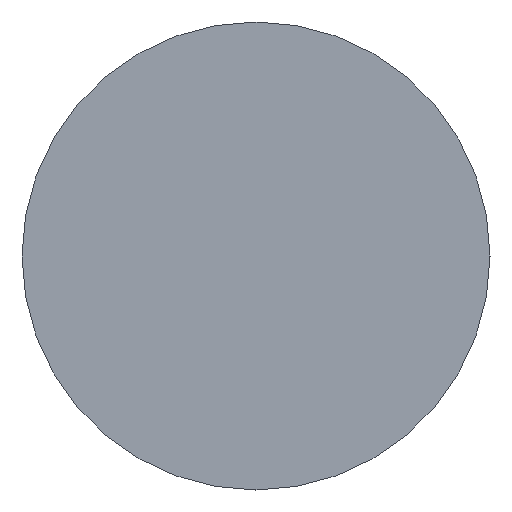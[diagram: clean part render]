
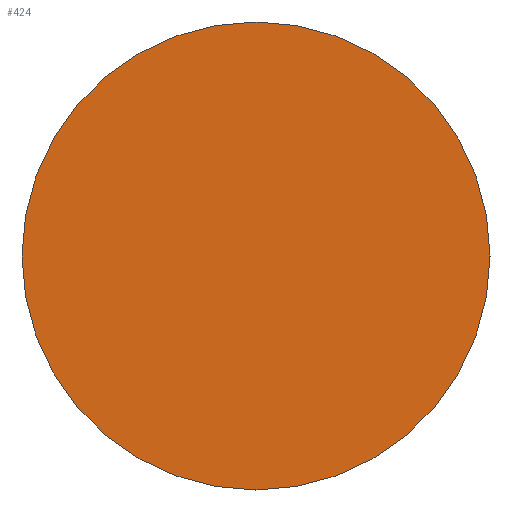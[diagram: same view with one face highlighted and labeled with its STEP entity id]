
A CAD part, left-side view. The second image highlights one B-rep face of the part: STEP entity #424.
In plain terms, the highlighted planar face has unit normal (-1, 0, 0).
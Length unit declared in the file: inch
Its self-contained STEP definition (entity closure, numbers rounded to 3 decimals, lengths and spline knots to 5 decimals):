
#4 = AXIS2_PLACEMENT_3D ( 'NONE', #59, #254, #223 ) ;
#12 = DIRECTION ( 'NONE',  ( -1., 0., 0. ) ) ;
#19 = VERTEX_POINT ( 'NONE', #33 ) ;
#33 = CARTESIAN_POINT ( 'NONE',  ( -2.5, 0., -0.125 ) ) ;
#48 = DIRECTION ( 'NONE',  ( 0., 0., 1. ) ) ;
#59 = CARTESIAN_POINT ( 'NONE',  ( -2.5, 0.125, 0. ) ) ;
#83 = AXIS2_PLACEMENT_3D ( 'NONE', #300, #393, #396 ) ;
#84 = CARTESIAN_POINT ( 'NONE',  ( -2.5, 0., 0.125 ) ) ;
#125 = FACE_OUTER_BOUND ( 'NONE', #333, .T. ) ;
#130 = EDGE_CURVE ( 'NONE', #19, #187, #136, .T. ) ;
#136 = CIRCLE ( 'NONE', #83, 0.125 ) ;
#181 = CIRCLE ( 'NONE', #226, 0.125 ) ;
#187 = VERTEX_POINT ( 'NONE', #84 ) ;
#215 = ORIENTED_EDGE ( 'NONE', *, *, #354, .T. ) ;
#223 = DIRECTION ( 'NONE',  ( 0., 0., -1. ) ) ;
#226 = AXIS2_PLACEMENT_3D ( 'NONE', #334, #12, #48 ) ;
#254 = DIRECTION ( 'NONE',  ( 1., 0., 0. ) ) ;
#300 = CARTESIAN_POINT ( 'NONE',  ( -2.5, 0., 0. ) ) ;
#333 = EDGE_LOOP ( 'NONE', ( #215, #371 ) ) ;
#334 = CARTESIAN_POINT ( 'NONE',  ( -2.5, 0., 0. ) ) ;
#349 = PLANE ( 'NONE',  #4 ) ;
#354 = EDGE_CURVE ( 'NONE', #187, #19, #181, .T. ) ;
#371 = ORIENTED_EDGE ( 'NONE', *, *, #130, .T. ) ;
#393 = DIRECTION ( 'NONE',  ( -1., 0., 0. ) ) ;
#396 = DIRECTION ( 'NONE',  ( 0., 0., 1. ) ) ;
#424 = ADVANCED_FACE ( 'NONE', ( #125 ), #349, .F. ) ;
